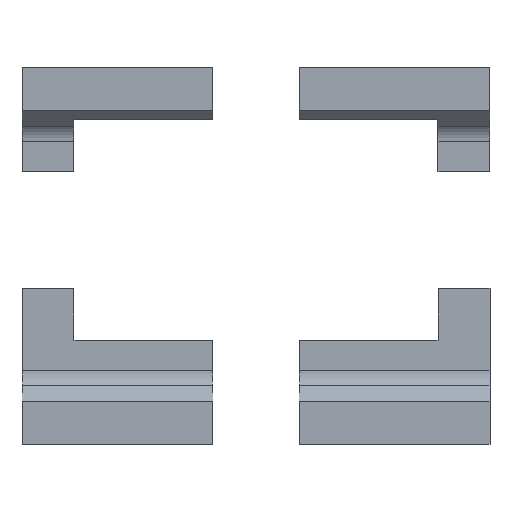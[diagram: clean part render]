
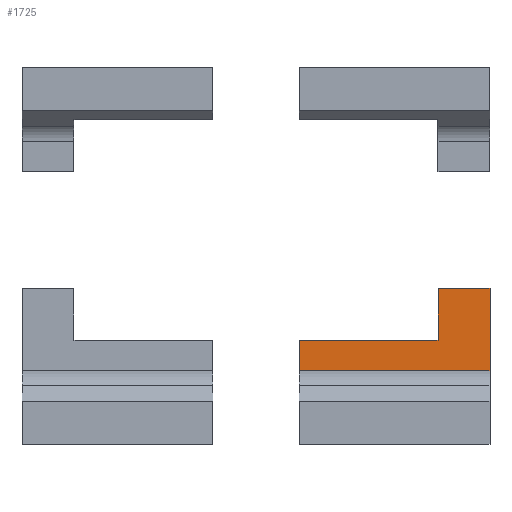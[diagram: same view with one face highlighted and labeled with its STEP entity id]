
A CAD part, front view. The second image highlights one B-rep face of the part: STEP entity #1725.
In plain terms, the highlighted planar face has unit normal (0, -1, 0).
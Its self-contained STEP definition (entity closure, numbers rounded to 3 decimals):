
#59=PLANE('',#1862);
#141=FACE_OUTER_BOUND('',#233,.T.);
#233=EDGE_LOOP('',(#1451,#1452,#1453,#1454,#1455,#1456));
#384=LINE('',#2716,#580);
#398=LINE('',#2755,#594);
#399=LINE('',#2757,#595);
#400=LINE('',#2759,#596);
#401=LINE('',#2760,#597);
#402=LINE('',#2761,#598);
#580=VECTOR('',#2205,10.);
#594=VECTOR('',#2239,10.);
#595=VECTOR('',#2240,10.);
#596=VECTOR('',#2241,10.);
#597=VECTOR('',#2242,10.);
#598=VECTOR('',#2243,10.);
#820=VERTEX_POINT('',#2713);
#821=VERTEX_POINT('',#2715);
#835=VERTEX_POINT('',#2753);
#836=VERTEX_POINT('',#2754);
#837=VERTEX_POINT('',#2756);
#838=VERTEX_POINT('',#2758);
#1035=EDGE_CURVE('',#821,#820,#384,.T.);
#1054=EDGE_CURVE('',#835,#836,#398,.T.);
#1055=EDGE_CURVE('',#836,#837,#399,.T.);
#1056=EDGE_CURVE('',#837,#838,#400,.T.);
#1057=EDGE_CURVE('',#838,#821,#401,.T.);
#1058=EDGE_CURVE('',#820,#835,#402,.T.);
#1451=ORIENTED_EDGE('',*,*,#1054,.T.);
#1452=ORIENTED_EDGE('',*,*,#1055,.T.);
#1453=ORIENTED_EDGE('',*,*,#1056,.T.);
#1454=ORIENTED_EDGE('',*,*,#1057,.T.);
#1455=ORIENTED_EDGE('',*,*,#1035,.T.);
#1456=ORIENTED_EDGE('',*,*,#1058,.T.);
#1725=ADVANCED_FACE('',(#141),#59,.T.);
#1862=AXIS2_PLACEMENT_3D('',#2752,#2237,#2238);
#2205=DIRECTION('',(0.,0.,-1.));
#2237=DIRECTION('center_axis',(0.,-1.,0.));
#2238=DIRECTION('ref_axis',(0.,0.,-1.));
#2239=DIRECTION('',(0.,0.,1.));
#2240=DIRECTION('',(-1.,0.,0.));
#2241=DIRECTION('',(0.,0.,-1.));
#2242=DIRECTION('',(-1.,0.,0.));
#2243=DIRECTION('',(1.,0.,0.));
#2713=CARTESIAN_POINT('',(44.,-3.5,86.071));
#2715=CARTESIAN_POINT('',(44.,-3.5,93.));
#2716=CARTESIAN_POINT('',(44.,-3.5,102.));
#2752=CARTESIAN_POINT('Origin',(31.,-3.5,123.));
#2753=CARTESIAN_POINT('',(88.,-3.5,86.071));
#2754=CARTESIAN_POINT('',(88.,-3.5,105.));
#2755=CARTESIAN_POINT('',(88.,-3.5,114.));
#2756=CARTESIAN_POINT('',(76.,-3.5,105.));
#2757=CARTESIAN_POINT('',(53.5,-3.5,105.));
#2758=CARTESIAN_POINT('',(76.,-3.5,93.));
#2759=CARTESIAN_POINT('',(76.,-3.5,108.));
#2760=CARTESIAN_POINT('',(37.5,-3.5,93.));
#2761=CARTESIAN_POINT('',(31.,-3.5,86.071));
